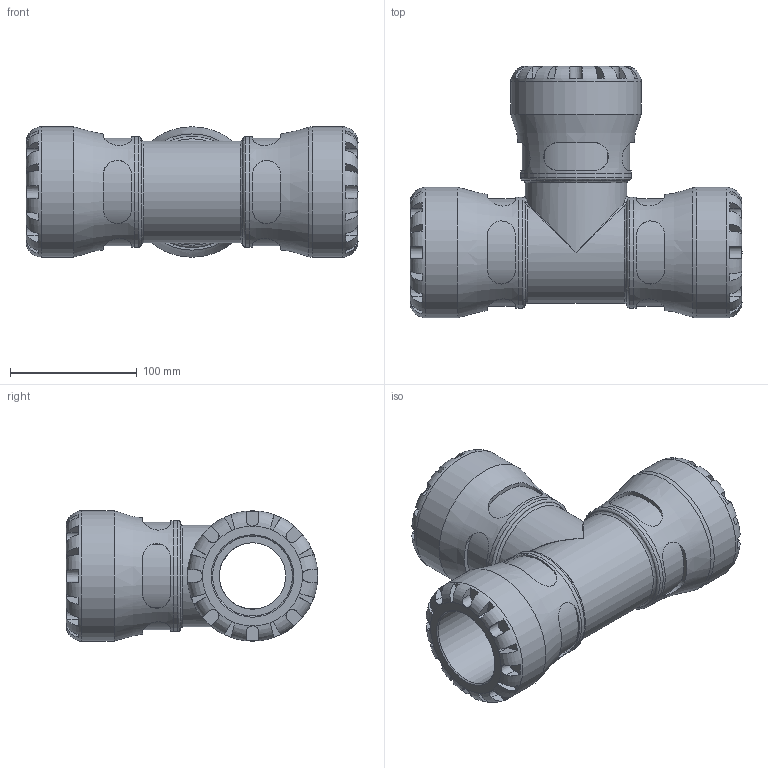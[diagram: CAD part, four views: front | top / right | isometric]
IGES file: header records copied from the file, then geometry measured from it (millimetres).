
Global section: file name: 100400063_190400063.ipt; native system: Autodesk Inventor 2015; preprocessor: unknown; author: KIM; date: 20180211.125746; units: millimetre
Bounding box: 262 x 198.5 x 103 mm (x, y, z)
Volume: 1351456.9 mm3; surface area: 201967.5 mm2
Topology: 1 solids, 1 shells, 304 faces, 799 edges, 505 vertices
Faces by surface type: plane 182, revolution 68, cylinder 44, bspline 10
Full cylindrical faces by diameter (mm): 80.34 x1, 87.55 x3, 103 x3
